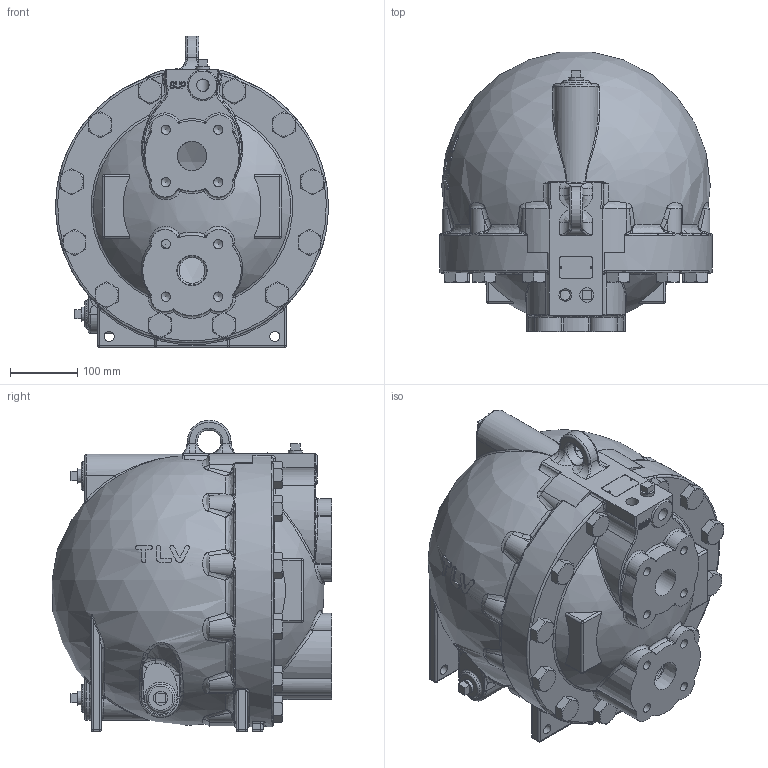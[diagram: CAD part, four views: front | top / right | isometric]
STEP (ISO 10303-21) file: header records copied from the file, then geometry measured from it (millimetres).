
FILE_DESCRIPTION(/* description */ (''),/* implementation_level */ '2;1');
FILE_NAME(/* name */ 'H:\nakaot\Inventor\COS\GPGT\gt14m-040-e0040-01.stp',/* time_stamp */ '2019-10-18T09:49:41+09:00',/* author */ ('nakaot'),/* organization */ (''),/* preprocessor_version */ 'ST-DEVELOPER v18',/* originating_system */ 'Autodesk Inventor 2020',/* authorisation */ '');
FILE_SCHEMA (('AUTOMOTIVE_DESIGN { 1 0 10303 214 3 1 1 }'));
Products named in the file (1): gt14m-040-e0040-01
Bounding box: 404.94 x 414.9 x 463 mm (x, y, z)
Volume: 11135530.5 mm3; surface area: 1281667.6 mm2
Topology: 1 solids, 17 shells, 1301 faces, 3268 edges, 1940 vertices
Faces by surface type: bspline 368, plane 311, cylinder 270, torus 159, cone 119, sphere 74
Full cylindrical faces by diameter (mm): 1.6 x2, 2 x2, 2.6 x2, 10.106 x4, 13.835 x8, 14.95 x2, 15 x4, 17.294 x12, 17.5 x2, 18.631 x3, 35 x1, 43.5 x2, 60 x1, 302 x1
Entity records: 69229 total; most frequent: CARTESIAN_POINT 39661, ORIENTED_EDGE 6324, DIRECTION 5373, EDGE_CURVE 3162, AXIS2_PLACEMENT_3D 2325, VERTEX_POINT 1940, EDGE_LOOP 1374, CIRCLE 1336
